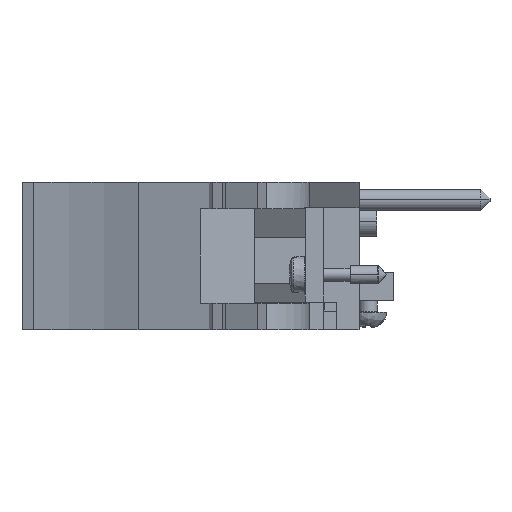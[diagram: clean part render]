
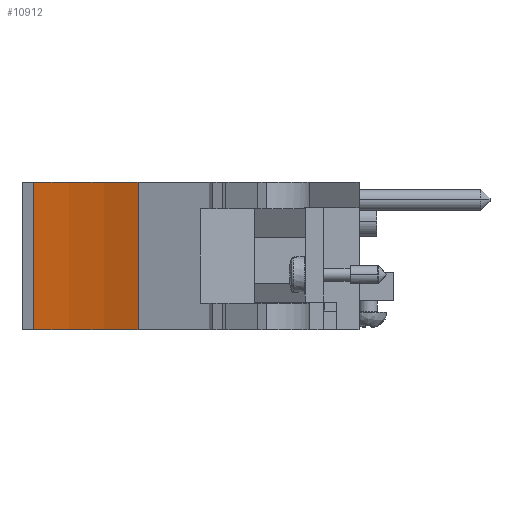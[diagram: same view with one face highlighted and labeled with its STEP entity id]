
A CAD part, front view. The second image highlights one B-rep face of the part: STEP entity #10912.
In plain terms, the highlighted cylindrical face has radius 51.46 mm (diameter 102.919 mm), a partial arc.
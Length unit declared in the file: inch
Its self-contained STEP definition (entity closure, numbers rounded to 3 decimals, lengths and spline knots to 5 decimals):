
#111=CARTESIAN_POINT('',(-1.97083,-5.94808,-0.093));
#112=DIRECTION('',(0.,0.,1.));
#113=DIRECTION('',(0.435,0.9,0.));
#114=AXIS2_PLACEMENT_3D('',#111,#112,#113);
#1252=CARTESIAN_POINT('',(-1.97083,-5.94808,0.695));
#1253=DIRECTION('',(0.,0.,1.));
#1254=DIRECTION('',(0.435,0.9,0.));
#1255=AXIS2_PLACEMENT_3D('',#1252,#1253,#1254);
#1601=DIRECTION('',(0.,0.,1.));
#1602=VECTOR('',#1601,0.788);
#1603=CARTESIAN_POINT('',(-1.08953,-4.12384,-0.093));
#1604=LINE('',#1603,#1602);
#1617=DIRECTION('',(0.,0.,1.));
#1618=VECTOR('',#1617,0.788);
#1619=CARTESIAN_POINT('',(-1.6475,-3.94808,-0.093));
#1620=LINE('',#1619,#1618);
#8247=CARTESIAN_POINT('',(-1.08953,-4.12384,-0.093));
#8248=CARTESIAN_POINT('',(-1.6475,-3.94808,-0.093));
#8249=VERTEX_POINT('',#8247);
#8250=VERTEX_POINT('',#8248);
#8251=CARTESIAN_POINT('',(-1.08953,-4.12384,0.695));
#8252=CARTESIAN_POINT('',(-1.6475,-3.94808,0.695));
#8253=VERTEX_POINT('',#8251);
#8254=VERTEX_POINT('',#8252);
#10900=CARTESIAN_POINT('',(-1.97083,-5.94808,0.695));
#10901=DIRECTION('',(0.,0.,1.));
#10902=DIRECTION('',(0.,1.,0.));
#10903=AXIS2_PLACEMENT_3D('',#10900,#10901,#10902);
#10904=CYLINDRICAL_SURFACE('',#10903,2.02597);
#10905=ORIENTED_EDGE('',*,*,#9437,.T.);
#10907=ORIENTED_EDGE('',*,*,#10906,.T.);
#10908=ORIENTED_EDGE('',*,*,#10467,.F.);
#10909=ORIENTED_EDGE('',*,*,#10885,.F.);
#10910=EDGE_LOOP('',(#10905,#10907,#10908,#10909));
#10911=FACE_OUTER_BOUND('',#10910,.F.);
#10912=ADVANCED_FACE('',(#10911),#10904,.F.);
#115=CIRCLE('',#114,2.02597);
#1256=CIRCLE('',#1255,2.02597);
#9437=EDGE_CURVE('',#8249,#8250,#115,.T.);
#10467=EDGE_CURVE('',#8253,#8254,#1256,.T.);
#10885=EDGE_CURVE('',#8249,#8253,#1604,.T.);
#10906=EDGE_CURVE('',#8250,#8254,#1620,.T.);
